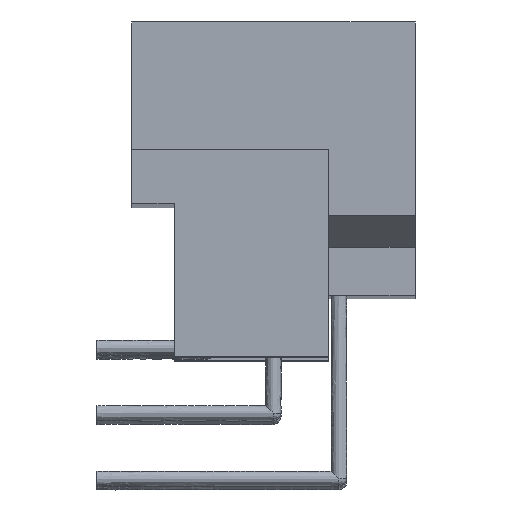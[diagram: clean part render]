
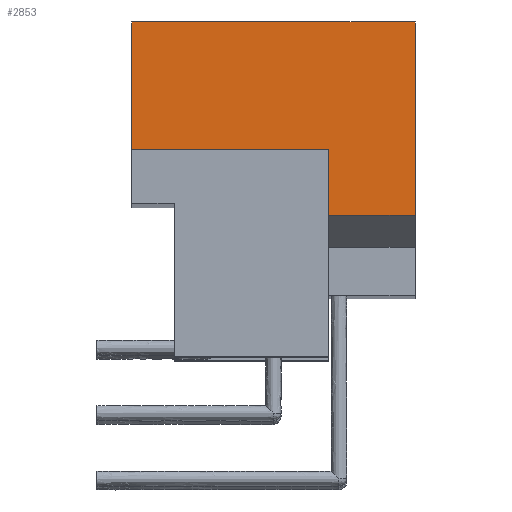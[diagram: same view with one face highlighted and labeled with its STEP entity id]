
A CAD part, top view. The second image highlights one B-rep face of the part: STEP entity #2853.
In plain terms, the highlighted free-form (B-spline) face has degree [1, 1] with [2, 2] control points.
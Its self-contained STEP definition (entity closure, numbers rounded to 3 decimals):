
#2654=CARTESIAN_POINT('V6',(-1.65,10.6,
   87.5));
#2655=VERTEX_POINT('V6',#2654);
#2661=CARTESIAN_POINT('V5',(9.35,10.6,
   87.5));
#2662=VERTEX_POINT('V5',#2661);
#2663=CARTESIAN_POINT('E5',(-1.65,10.6,
   87.5));
#2664=CARTESIAN_POINT('E5',(9.35,10.6,
   87.5));
#2665=QUASI_UNIFORM_CURVE('E5',1,(#2663,#2664),.POLYLINE_FORM.,.F.,
   .U.);
#2666=EDGE_CURVE('E5',#2655,#2662,#2665,.T.);
#2783=CARTESIAN_POINT('V1',(-1.65,5.65,
   87.5));
#2784=VERTEX_POINT('V1',#2783);
#2790=CARTESIAN_POINT('E6',(-1.65,5.65,
   87.5));
#2791=CARTESIAN_POINT('E6',(-1.65,10.6,
   87.5));
#2792=B_SPLINE_CURVE_WITH_KNOTS('E6',1,(#2790,#2791),.POLYLINE_FORM.,
   .F.,.U.,(2,2),(0.298,1.0),.UNSPECIFIED.);
#2793=EDGE_CURVE('E6',#2784,#2655,#2792,.T.);
#2809=CARTESIAN_POINT('V2',(6.,5.65,
   87.5));
#2810=VERTEX_POINT('V2',#2809);
#2816=CARTESIAN_POINT('E1',(-1.65,5.65,
   87.5));
#2817=CARTESIAN_POINT('E1',(6.,5.65,
   87.5));
#2818=QUASI_UNIFORM_CURVE('E1',1,(#2816,#2817),.POLYLINE_FORM.,.F.,
   .U.);
#2819=EDGE_CURVE('E1',#2784,#2810,#2818,.T.);
#2824=CARTESIAN_POINT('F1',(-2.2,-0.53,
   87.5));
#2825=CARTESIAN_POINT('F1',(9.9,-0.53,
   87.5));
#2826=CARTESIAN_POINT('F1',(-2.2,11.13,
   87.5));
#2827=CARTESIAN_POINT('F1',(9.9,11.13,
   87.5));
#2828=QUASI_UNIFORM_SURFACE('F1',1,1,((#2824,#2826),(#2825,#2827)),
   .PLANE_SURF.,.F.,.F.,.U.);
#2829=ORIENTED_EDGE('F5',*,*,#2819,.T.);
#2830=CARTESIAN_POINT('V3',(6.,3.098,
   87.5));
#2831=VERTEX_POINT('V3',#2830);
#2832=CARTESIAN_POINT('E2',(6.,5.65,
   87.5));
#2833=CARTESIAN_POINT('E2',(6.,3.098,
   87.5));
#2834=QUASI_UNIFORM_CURVE('E2',1,(#2832,#2833),.POLYLINE_FORM.,.F.,
   .U.);
#2835=EDGE_CURVE('E2',#2810,#2831,#2834,.T.);
#2836=ORIENTED_EDGE('E2',*,*,#2835,.T.);
#2837=CARTESIAN_POINT('V4',(9.35,3.098,
   87.5));
#2838=VERTEX_POINT('V4',#2837);
#2839=CARTESIAN_POINT('E3',(6.,3.098,
   87.5));
#2840=CARTESIAN_POINT('E3',(9.35,3.098,
   87.5));
#2841=B_SPLINE_CURVE_WITH_KNOTS('E3',1,(#2839,#2840),.POLYLINE_FORM.,
   .F.,.U.,(2,2),(1.937,3.018),
   .UNSPECIFIED.);
#2842=EDGE_CURVE('E3',#2831,#2838,#2841,.T.);
#2843=ORIENTED_EDGE('E3',*,*,#2842,.T.);
#2844=CARTESIAN_POINT('E4',(9.35,10.6,
   87.5));
#2845=CARTESIAN_POINT('E4',(9.35,3.098,
   87.5));
#2846=B_SPLINE_CURVE_WITH_KNOTS('E4',1,(#2844,#2845),.POLYLINE_FORM.,
   .F.,.U.,(2,2),(0.0,0.708),.UNSPECIFIED.);
#2847=EDGE_CURVE('E4',#2662,#2838,#2846,.T.);
#2848=ORIENTED_EDGE('E4',*,*,#2847,.F.);
#2849=ORIENTED_EDGE('E5',*,*,#2666,.F.);
#2850=ORIENTED_EDGE('E6',*,*,#2793,.F.);
#2851=EDGE_LOOP('F1',(#2829,#2836,#2843,#2848,#2849,#2850));
#2852=FACE_OUTER_BOUND('F1',#2851,.T.);
#2853=ADVANCED_FACE('F1',(#2852),#2828,.T.);
